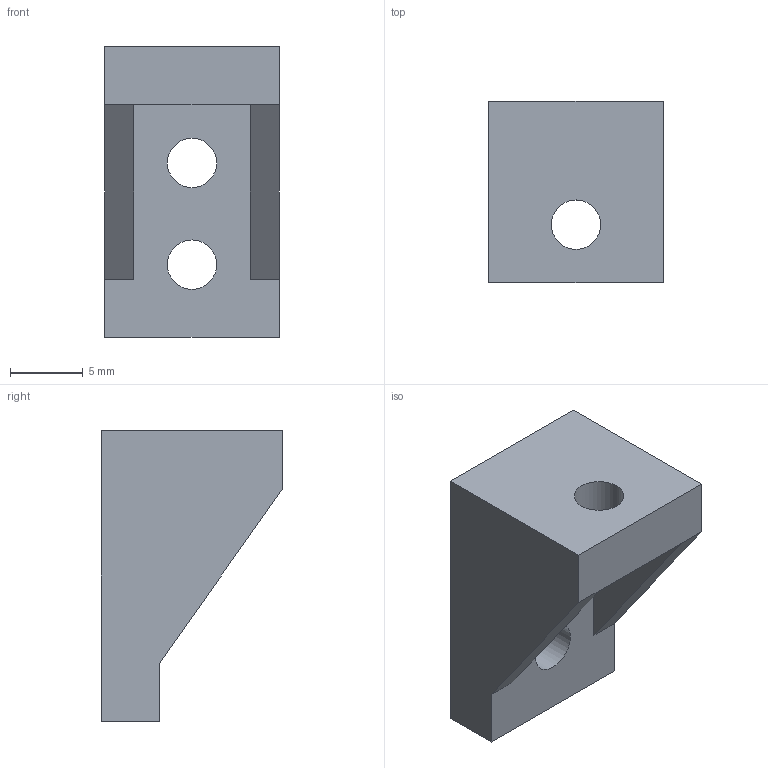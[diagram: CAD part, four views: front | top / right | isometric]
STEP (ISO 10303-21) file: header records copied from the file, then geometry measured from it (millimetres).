
FILE_DESCRIPTION(('Open CASCADE Model'),'2;1');
FILE_NAME('Open CASCADE Shape Model','2026-11-24T19:57:38',('Author'),( 'Open CASCADE'),'Open CASCADE STEP processor 7.8','Open CASCADE 7.8' ,'Unknown');
FILE_SCHEMA(('AUTOMOTIVE_DESIGN { 1 0 10303 214 1 1 1 1 }'));
Length unit declared in the file: millimetre
Products named in the file (1): Open CASCADE STEP translator 7.8 4
Bounding box: 12 x 12.5 x 20 mm (x, y, z)
Volume: 1463 mm3; surface area: 1262.5 mm2
Topology: 1 solids, 1 shells, 15 faces, 37 edges, 24 vertices
Faces by surface type: plane 12, cylinder 3
Full cylindrical faces by diameter (mm): 3.4 x3
Entity records: 941 total; most frequent: CARTESIAN_POINT 154, DIRECTION 146, LINE 96, VECTOR 96, ORIENTED_EDGE 74, PCURVE 74, DEFINITIONAL_REPRESENTATION 74, EDGE_CURVE 37
